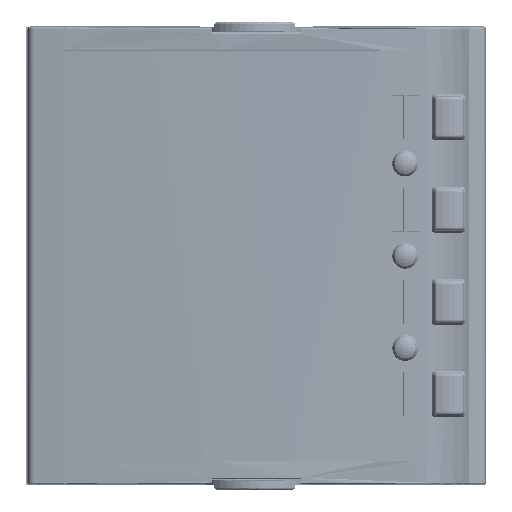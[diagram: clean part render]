
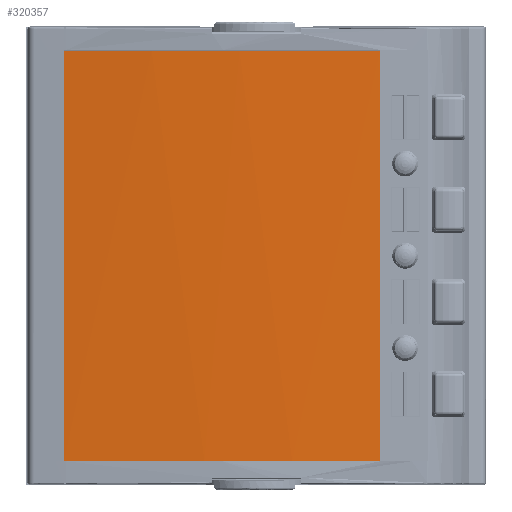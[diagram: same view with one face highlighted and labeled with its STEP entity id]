
A CAD part, left-side view. The second image highlights one B-rep face of the part: STEP entity #320357.
In plain terms, the highlighted cylindrical face has radius 446.23 mm (diameter 892.461 mm), a partial arc.
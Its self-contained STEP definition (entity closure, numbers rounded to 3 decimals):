
#304942=CARTESIAN_POINT('',(4.158,88.476,
-91.078));
#304943=CARTESIAN_POINT('',(3.535,81.157,
-91.077));
#304944=CARTESIAN_POINT('',(2.65,66.488,
-91.076));
#304945=CARTESIAN_POINT('',(2.411,44.447,
-91.076));
#304946=CARTESIAN_POINT('',(2.977,29.762,
-91.076));
#304947=CARTESIAN_POINT('',(3.441,22.433,
-91.078));
#304949=CARTESIAN_POINT('',(3.441,22.433,
-91.078));
#304991=CARTESIAN_POINT('',(3.441,22.437,
-5.258));
#304993=CARTESIAN_POINT('',(3.441,22.437,
-5.258));
#304994=CARTESIAN_POINT('',(2.977,29.767,
-5.259));
#304995=CARTESIAN_POINT('',(2.411,44.453,
-5.258));
#304996=CARTESIAN_POINT('',(2.65,66.49,
-5.26));
#304997=CARTESIAN_POINT('',(3.535,81.158,
-5.256));
#304998=CARTESIAN_POINT('',(4.158,88.476,
-5.254));
#305025=DIRECTION('',(0.,0.,-1.));
#305026=VECTOR('',#305025,85.82);
#305027=CARTESIAN_POINT('',(3.441,22.437,
-5.258));
#305028=LINE('',#305027,#305026);
#305029=DIRECTION('',(0.,0.,-1.));
#305030=VECTOR('',#305029,85.824);
#305031=CARTESIAN_POINT('',(4.158,88.476,
-5.254));
#305032=LINE('',#305031,#305030);
#307352=VERTEX_POINT('',#304991);
#307353=VERTEX_POINT('',#304949);
#307354=VERTEX_POINT('',#304998);
#307355=VERTEX_POINT('',#304942);
#320345=CARTESIAN_POINT('',(448.78,50.626,
-92.796));
#320346=DIRECTION('',(0.,0.,1.));
#320347=DIRECTION('',(-0.996,0.085,0.));
#320348=AXIS2_PLACEMENT_3D('',#320345,#320346,#320347);
#320349=CYLINDRICAL_SURFACE('',#320348,446.23);
#320350=ORIENTED_EDGE('',*,*,#320308,.F.);
#320351=ORIENTED_EDGE('',*,*,#320340,.T.);
#320352=ORIENTED_EDGE('',*,*,#320272,.F.);
#320354=ORIENTED_EDGE('',*,*,#320353,.F.);
#320355=EDGE_LOOP('',(#320350,#320351,#320352,#320354));
#320356=FACE_OUTER_BOUND('',#320355,.F.);
#304948=B_SPLINE_CURVE_WITH_KNOTS('',3,(#304942,#304943,#304944,#304945,#304946,
#304947),.UNSPECIFIED.,.F.,.F.,(4,1,1,4),(0.,0.333,
0.667,1.),.UNSPECIFIED.);
#304999=B_SPLINE_CURVE_WITH_KNOTS('',3,(#304993,#304994,#304995,#304996,#304997,
#304998),.UNSPECIFIED.,.F.,.F.,(4,1,1,4),(0.,0.333,
0.667,1.),.UNSPECIFIED.);
#320272=EDGE_CURVE('',#307355,#307353,#304948,.T.);
#320308=EDGE_CURVE('',#307352,#307354,#304999,.T.);
#320340=EDGE_CURVE('',#307352,#307353,#305028,.T.);
#320353=EDGE_CURVE('',#307354,#307355,#305032,.T.);
#320357=ADVANCED_FACE('',(#320356),#320349,.T.);
